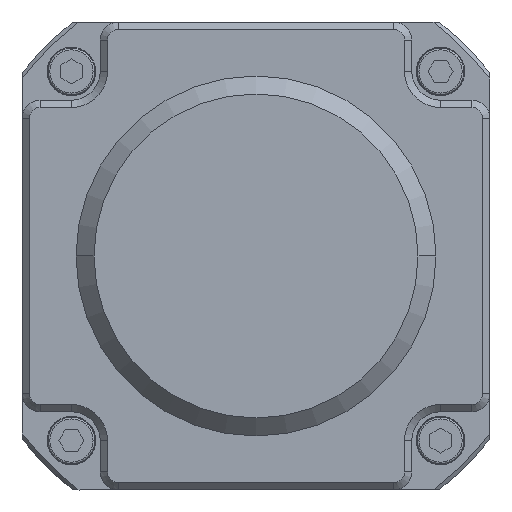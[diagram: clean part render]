
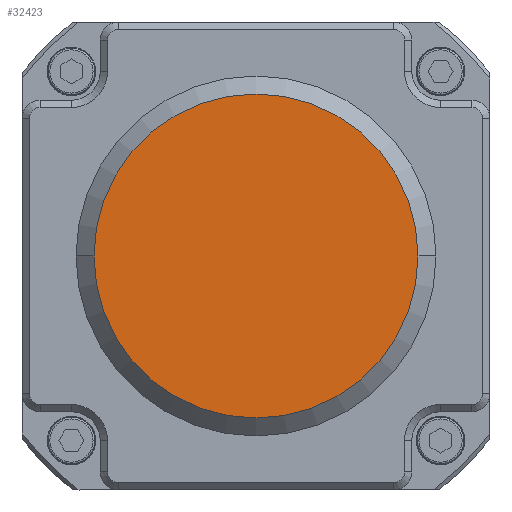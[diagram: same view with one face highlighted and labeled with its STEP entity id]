
A CAD part, front view. The second image highlights one B-rep face of the part: STEP entity #32423.
In plain terms, the highlighted planar face has unit normal (0, -1, 0) as drawn and (0, 1, 0) by its records, which use the part's own axes.
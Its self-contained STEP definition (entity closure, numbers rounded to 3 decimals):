
#30344=CARTESIAN_POINT('',(0.,166.,0.));
#30345=DIRECTION('',(0.,1.,0.));
#30346=DIRECTION('',(-1.,0.,0.));
#30347=AXIS2_PLACEMENT_3D('',#30344,#30345,#30346);
#30349=CARTESIAN_POINT('',(0.,166.,0.));
#30350=DIRECTION('',(0.,1.,0.));
#30351=DIRECTION('',(1.,0.,0.));
#30352=AXIS2_PLACEMENT_3D('',#30349,#30350,#30351);
#30969=CARTESIAN_POINT('',(-45.,166.,0.));
#30970=CARTESIAN_POINT('',(45.,166.,0.));
#30971=VERTEX_POINT('',#30969);
#30972=VERTEX_POINT('',#30970);
#32413=CARTESIAN_POINT('',(0.,166.,0.));
#32414=DIRECTION('',(0.,1.,0.));
#32415=DIRECTION('',(1.,0.,0.));
#32416=AXIS2_PLACEMENT_3D('',#32413,#32414,#32415);
#32417=PLANE('',#32416);
#32419=ORIENTED_EDGE('',*,*,#32418,.F.);
#32420=ORIENTED_EDGE('',*,*,#32403,.F.);
#32421=EDGE_LOOP('',(#32419,#32420));
#32422=FACE_OUTER_BOUND('',#32421,.F.);
#32423=ADVANCED_FACE('',(#32422),#32417,.T.);
#30348=CIRCLE('',#30347,45.);
#30353=CIRCLE('',#30352,45.);
#32403=EDGE_CURVE('',#30972,#30971,#30353,.T.);
#32418=EDGE_CURVE('',#30971,#30972,#30348,.T.);
